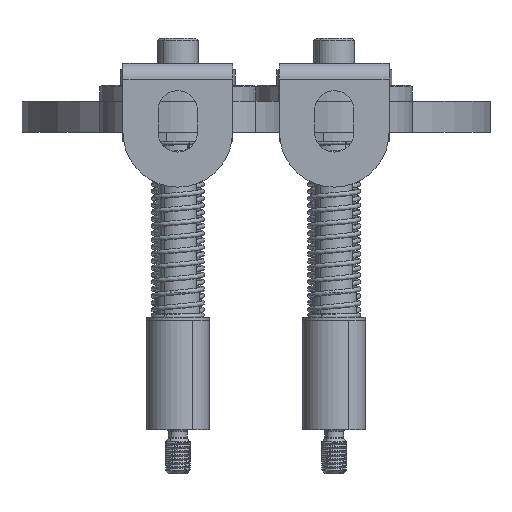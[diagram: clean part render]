
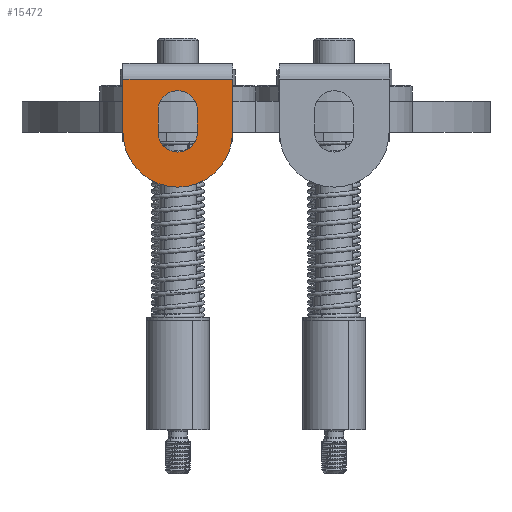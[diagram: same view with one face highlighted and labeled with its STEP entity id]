
A CAD part, left-side view. The second image highlights one B-rep face of the part: STEP entity #15472.
In plain terms, the highlighted planar face has unit normal (-1, 0, 0).
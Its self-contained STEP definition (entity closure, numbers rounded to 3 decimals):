
#1671 = EDGE_CURVE ( 'NONE', #17497, #26826, #36014, .T. ) ;
#1895 = ORIENTED_EDGE ( 'NONE', *, *, #8370, .T. ) ;
#2490 = CARTESIAN_POINT ( 'NONE',  ( -181.5, 25., 7. ) ) ;
#3344 = DIRECTION ( 'NONE',  ( 0., 0., -1. ) ) ;
#3559 = VERTEX_POINT ( 'NONE', #36481 ) ;
#4526 = DIRECTION ( 'NONE',  ( -1., 0., 0. ) ) ;
#5525 = ORIENTED_EDGE ( 'NONE', *, *, #35359, .T. ) ;
#6500 = LINE ( 'NONE', #11019, #27503 ) ;
#6521 = DIRECTION ( 'NONE',  ( -1., 0., 0. ) ) ;
#6814 = CARTESIAN_POINT ( 'NONE',  ( -181.5, 31.3, 7. ) ) ;
#7018 = DIRECTION ( 'NONE',  ( 0., 1., 0. ) ) ;
#7135 = VERTEX_POINT ( 'NONE', #29704 ) ;
#7724 = DIRECTION ( 'NONE',  ( 0., 0., -1. ) ) ;
#8370 = EDGE_CURVE ( 'NONE', #43345, #3559, #26674, .T. ) ;
#8819 = AXIS2_PLACEMENT_3D ( 'NONE', #51789, #47804, #35823 ) ;
#9727 = ORIENTED_EDGE ( 'NONE', *, *, #49970, .F. ) ;
#10339 = VECTOR ( 'NONE', #3344, 1000. ) ;
#10774 = CARTESIAN_POINT ( 'NONE',  ( -181.5, 25., 0. ) ) ;
#10806 = LINE ( 'NONE', #6814, #10339 ) ;
#11019 = CARTESIAN_POINT ( 'NONE',  ( -181.5, 25., 17. ) ) ;
#11785 = CIRCLE ( 'NONE', #12663, 17.5 ) ;
#12663 = AXIS2_PLACEMENT_3D ( 'NONE', #20695, #52686, #20958 ) ;
#13489 = DIRECTION ( 'NONE',  ( -1., 0., 0. ) ) ;
#14815 = CARTESIAN_POINT ( 'NONE',  ( -181.5, 18.7, 7. ) ) ;
#14863 = CARTESIAN_POINT ( 'NONE',  ( -181.5, 42.5, 17. ) ) ;
#15472 = ADVANCED_FACE ( 'NONE', ( #23274, #39559 ), #19543, .T. ) ;
#16504 = VECTOR ( 'NONE', #27610, 1000. ) ;
#16562 = EDGE_LOOP ( 'NONE', ( #50205, #24918, #9727, #40958, #35155 ) ) ;
#16675 = VERTEX_POINT ( 'NONE', #18033 ) ;
#17119 = EDGE_CURVE ( 'NONE', #50549, #32393, #6500, .T. ) ;
#17497 = VERTEX_POINT ( 'NONE', #26816 ) ;
#17629 = CIRCLE ( 'NONE', #34705, 6.3 ) ;
#18033 = CARTESIAN_POINT ( 'NONE',  ( -181.5, 31.3, 0. ) ) ;
#18198 = VECTOR ( 'NONE', #7724, 1000. ) ;
#18239 = ORIENTED_EDGE ( 'NONE', *, *, #48722, .T. ) ;
#19539 = DIRECTION ( 'NONE',  ( 0., 0., 1. ) ) ;
#19543 = PLANE ( 'NONE',  #8819 ) ;
#20695 = CARTESIAN_POINT ( 'NONE',  ( -181.5, 25., 0. ) ) ;
#20958 = DIRECTION ( 'NONE',  ( 0., 0., 1. ) ) ;
#21915 = CARTESIAN_POINT ( 'NONE',  ( -181.5, 31.3, 7. ) ) ;
#23274 = FACE_BOUND ( 'NONE', #16562, .T. ) ;
#23848 = CARTESIAN_POINT ( 'NONE',  ( -181.5, 42.5, 0. ) ) ;
#24218 = LINE ( 'NONE', #40512, #18198 ) ;
#24757 = CARTESIAN_POINT ( 'NONE',  ( -181.5, 25., 0. ) ) ;
#24918 = ORIENTED_EDGE ( 'NONE', *, *, #51027, .F. ) ;
#24948 = CARTESIAN_POINT ( 'NONE',  ( -181.5, 25., 7. ) ) ;
#25464 = CIRCLE ( 'NONE', #45908, 6.3 ) ;
#26076 = LINE ( 'NONE', #49265, #48711 ) ;
#26317 = AXIS2_PLACEMENT_3D ( 'NONE', #10774, #6521, #19539 ) ;
#26674 = CIRCLE ( 'NONE', #26317, 17.5 ) ;
#26816 = CARTESIAN_POINT ( 'NONE',  ( -181.5, 25., 13.3 ) ) ;
#26826 = VERTEX_POINT ( 'NONE', #21915 ) ;
#27503 = VECTOR ( 'NONE', #7018, 1000. ) ;
#27610 = DIRECTION ( 'NONE',  ( 0., 0., 1. ) ) ;
#29179 = EDGE_LOOP ( 'NONE', ( #37000, #33716, #5525, #1895, #18239 ) ) ;
#29704 = CARTESIAN_POINT ( 'NONE',  ( -181.5, 18.7, 0. ) ) ;
#31974 = EDGE_CURVE ( 'NONE', #40984, #50549, #26076, .T. ) ;
#32393 = VERTEX_POINT ( 'NONE', #14863 ) ;
#33716 = ORIENTED_EDGE ( 'NONE', *, *, #17119, .T. ) ;
#33821 = CARTESIAN_POINT ( 'NONE',  ( -181.5, 18.7, 7. ) ) ;
#34705 = AXIS2_PLACEMENT_3D ( 'NONE', #24757, #4526, #46079 ) ;
#34739 = DIRECTION ( 'NONE',  ( -1., 0., 0. ) ) ;
#35155 = ORIENTED_EDGE ( 'NONE', *, *, #1671, .F. ) ;
#35359 = EDGE_CURVE ( 'NONE', #32393, #43345, #24218, .T. ) ;
#35823 = DIRECTION ( 'NONE',  ( 0., 0., 1. ) ) ;
#36014 = CIRCLE ( 'NONE', #41095, 6.3 ) ;
#36354 = EDGE_CURVE ( 'NONE', #26826, #16675, #10806, .T. ) ;
#36481 = CARTESIAN_POINT ( 'NONE',  ( -181.5, 25., -17.5 ) ) ;
#37000 = ORIENTED_EDGE ( 'NONE', *, *, #31974, .T. ) ;
#37540 = DIRECTION ( 'NONE',  ( 0., 0., 1. ) ) ;
#39559 = FACE_OUTER_BOUND ( 'NONE', #29179, .T. ) ;
#40477 = CARTESIAN_POINT ( 'NONE',  ( -181.5, 7.5, 17. ) ) ;
#40512 = CARTESIAN_POINT ( 'NONE',  ( -181.5, 42.5, 0. ) ) ;
#40958 = ORIENTED_EDGE ( 'NONE', *, *, #36354, .F. ) ;
#40984 = VERTEX_POINT ( 'NONE', #52528 ) ;
#41095 = AXIS2_PLACEMENT_3D ( 'NONE', #24948, #13489, #41755 ) ;
#41755 = DIRECTION ( 'NONE',  ( 0., 0., 1. ) ) ;
#43345 = VERTEX_POINT ( 'NONE', #23848 ) ;
#45908 = AXIS2_PLACEMENT_3D ( 'NONE', #2490, #34739, #50180 ) ;
#46079 = DIRECTION ( 'NONE',  ( 0., 0., 1. ) ) ;
#46516 = EDGE_CURVE ( 'NONE', #48076, #17497, #25464, .T. ) ;
#47804 = DIRECTION ( 'NONE',  ( -1., 0., 0. ) ) ;
#48076 = VERTEX_POINT ( 'NONE', #33821 ) ;
#48711 = VECTOR ( 'NONE', #37540, 1000. ) ;
#48722 = EDGE_CURVE ( 'NONE', #3559, #40984, #11785, .T. ) ;
#49265 = CARTESIAN_POINT ( 'NONE',  ( -181.5, 7.5, 20. ) ) ;
#49970 = EDGE_CURVE ( 'NONE', #16675, #7135, #17629, .T. ) ;
#50180 = DIRECTION ( 'NONE',  ( 0., 0., 1. ) ) ;
#50205 = ORIENTED_EDGE ( 'NONE', *, *, #46516, .F. ) ;
#50549 = VERTEX_POINT ( 'NONE', #40477 ) ;
#51027 = EDGE_CURVE ( 'NONE', #7135, #48076, #51848, .T. ) ;
#51789 = CARTESIAN_POINT ( 'NONE',  ( -181.5, 25., 0. ) ) ;
#51848 = LINE ( 'NONE', #14815, #16504 ) ;
#52528 = CARTESIAN_POINT ( 'NONE',  ( -181.5, 7.5, 0. ) ) ;
#52686 = DIRECTION ( 'NONE',  ( -1., 0., 0. ) ) ;
